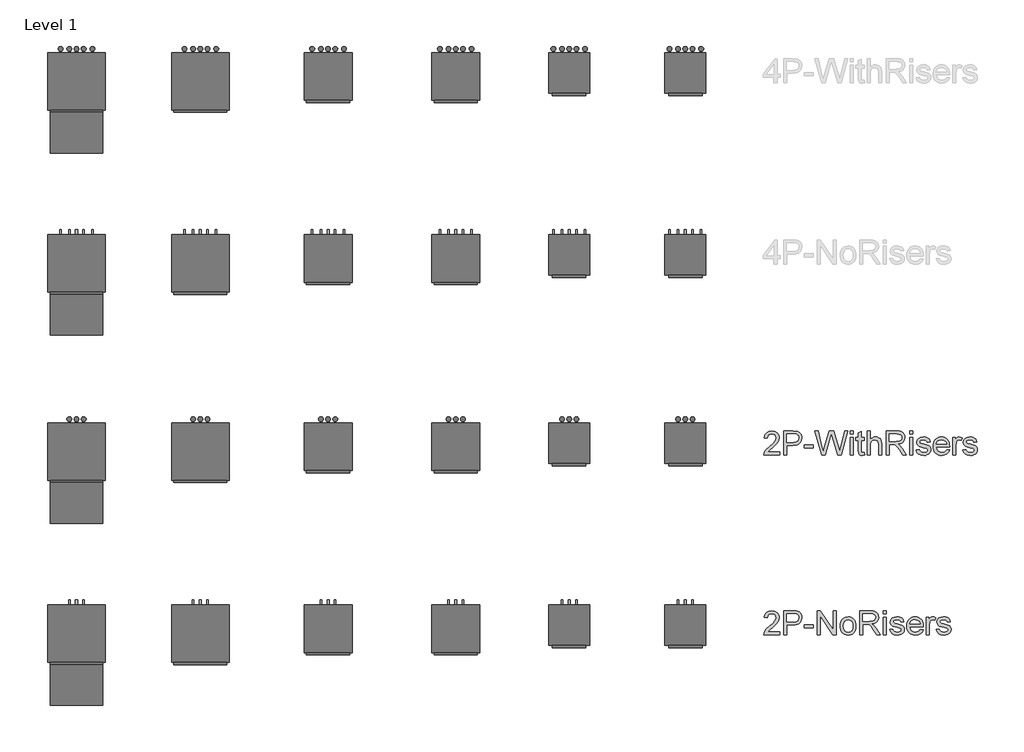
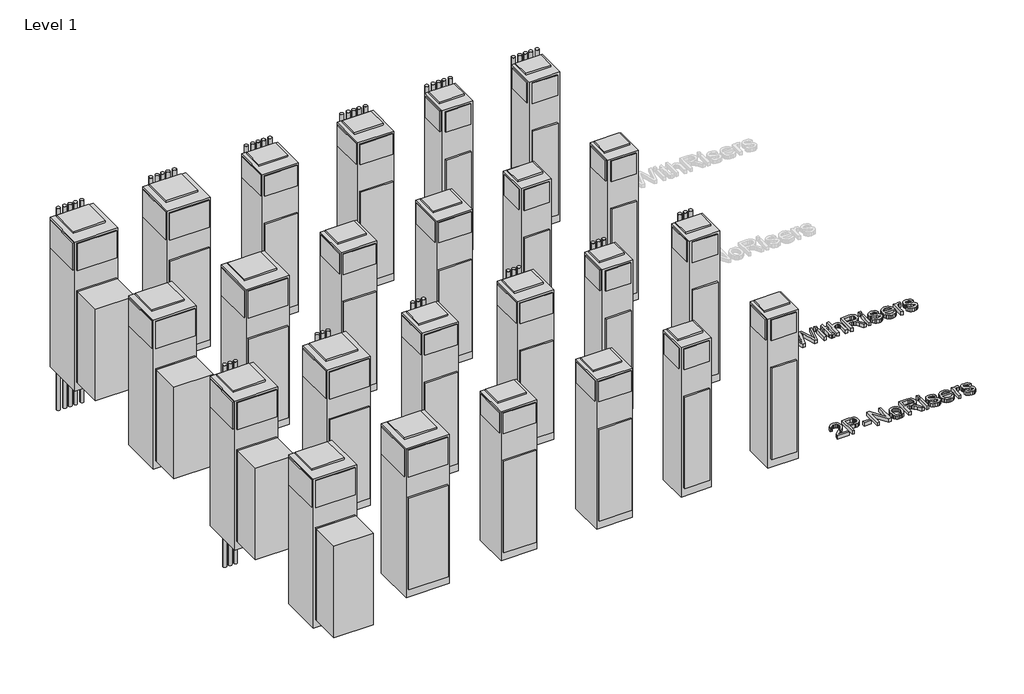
# One storey, part 1 of 2: 26 proxies.
"""IFC4 building model written with IfcOpenShell, lengths in millimetres."""

from ifc_helpers import new_model, si_unit, origin, origin_with_axes, place, context, project, spatial, polyline, outline, extrude, transform, mapped, element, save
from components import mechanical_equipment_94ad796c, mechanical_equipment_121a5135, mechanical_equipment_82ef6e23, mechanical_equipment_de3bccae, mechanical_equipment_6c74cc56, mechanical_equipment_7ddb4bdb, mechanical_equipment_e8b0c8a9, mechanical_equipment_c784438e, mechanical_equipment_e8841748, mechanical_equipment_2408cd90, mechanical_equipment_3d1a22ab, mechanical_equipment_fe32acea, mechanical_equipment_2a1655f5, mechanical_equipment_b0b4adb2, mechanical_equipment_d6ec7b3b, mechanical_equipment_a020af52

model = new_model("IFC4")

# Units and contexts
model_context = context("Model", 3, world=origin())
ifc_project = project(units=[si_unit("LENGTHUNIT", "METRE", prefix="MILLI")], contexts=[model_context])

# Site, building, storey
site = spatial("IfcSite", under=ifc_project)
building = spatial("IfcBuilding", under=site)
storey = spatial("IfcBuildingStorey", under=building, Name="Level 1", Elevation=0.0)

# Proxies
placement = place(None, origin())
mechanical_equipment_shape = mechanical_equipment_94ad796c(model_context)
element("IfcBuildingElementProxy", 1, Name="Concealed_Universal_Modular_Fan_Coil_Unit_-_42SUB_-_CARRIER_-_2-Pipe_Cool-EHeat_-_NoRisers_2022 : Size 03 - 277v/60Hz/1Ph - 4 Row 3.0kW", ObjectType="Concealed_Universal_Modular_Fan_Coil_Unit_-_42SUB_-_CARRIER_-_2-Pipe_Cool-EHeat_-_NoRisers_2022 : Size 03 - 277v/60Hz/1Ph - 4 Row 3.0kW", at=placement, inside=storey, context=model_context, shape_type="MappedRepresentation", body=[
    mapped(mechanical_equipment_shape, transform((-16313.9378135, -2906.7044754, 0.0), x_axis=(1.0, 0.0, 0.0), y_axis=(0.0, 1.0, 0.0), z_axis=(0.0, 0.0, 1.0))),
])
element("IfcBuildingElementProxy", 2, Name="Concealed_Universal_Modular_Fan_Coil_Unit_-_42SUB_-_CARRIER_-_2-Pipe_Cool-EHeat_-_NoRisers_2022 : Size 04 - 277v/60Hz/1Ph - 4 Row 4.0kW", ObjectType="Concealed_Universal_Modular_Fan_Coil_Unit_-_42SUB_-_CARRIER_-_2-Pipe_Cool-EHeat_-_NoRisers_2022 : Size 04 - 277v/60Hz/1Ph - 4 Row 4.0kW", at=placement, inside=storey, context=model_context, shape_type="MappedRepresentation", body=[
    mapped(mechanical_equipment_shape, transform((-17544.5504669, -2906.7044754, 0.0), x_axis=(1.0, 0.0, 0.0), y_axis=(0.0, 1.0, 0.0), z_axis=(0.0, 0.0, 1.0))),
])
mechanical_equipment_2_shape = mechanical_equipment_121a5135(model_context)
element("IfcBuildingElementProxy", 3, Name="Concealed_Universal_Modular_Fan_Coil_Unit_-_42SUB_-_CARRIER_-_2-Pipe_Cool-EHeat_-_NoRisers_2022 : Size 06 - 277v/60Hz/1Ph - 4 Row 6.0kW", ObjectType="Concealed_Universal_Modular_Fan_Coil_Unit_-_42SUB_-_CARRIER_-_2-Pipe_Cool-EHeat_-_NoRisers_2022 : Size 06 - 277v/60Hz/1Ph - 4 Row 6.0kW", at=placement, inside=storey, context=model_context, shape_type="MappedRepresentation", body=[
    mapped(mechanical_equipment_2_shape, transform((-18785.4182257, -2906.7044754, 0.0), x_axis=(1.0, 0.0, 0.0), y_axis=(0.0, 1.0, 0.0), z_axis=(0.0, 0.0, 1.0))),
])
element("IfcBuildingElementProxy", 4, Name="Concealed_Universal_Modular_Fan_Coil_Unit_-_42SUB_-_CARRIER_-_2-Pipe_Cool-EHeat_-_NoRisers_2022 : Size 08 - 277v/60Hz/1Ph - 4 Row 8.0kW", ObjectType="Concealed_Universal_Modular_Fan_Coil_Unit_-_42SUB_-_CARRIER_-_2-Pipe_Cool-EHeat_-_NoRisers_2022 : Size 08 - 277v/60Hz/1Ph - 4 Row 8.0kW", at=placement, inside=storey, context=model_context, shape_type="MappedRepresentation", body=[
    mapped(mechanical_equipment_2_shape, transform((-20139.0921444, -2906.7044754, 0.0), x_axis=(1.0, 0.0, 0.0), y_axis=(0.0, 1.0, 0.0), z_axis=(0.0, 0.0, 1.0))),
])
mechanical_equipment_3_shape = mechanical_equipment_82ef6e23(model_context)
element("IfcBuildingElementProxy", 5, Name="Concealed_Universal_Modular_Fan_Coil_Unit_-_42SUB_-_CARRIER_-_2-Pipe_Cool-EHeat_-_NoRisers_2022 : Size 10 - 277v/60Hz/1Ph - 4 Row 8.0kW", ObjectType="Concealed_Universal_Modular_Fan_Coil_Unit_-_42SUB_-_CARRIER_-_2-Pipe_Cool-EHeat_-_NoRisers_2022 : Size 10 - 277v/60Hz/1Ph - 4 Row 8.0kW", at=placement, inside=storey, context=model_context, shape_type="MappedRepresentation", body=[
    mapped(mechanical_equipment_3_shape, transform((-21544.0415903, -2906.7044754, 0.0), x_axis=(1.0, 0.0, 0.0), y_axis=(0.0, 1.0, 0.0), z_axis=(0.0, 0.0, 1.0))),
])
mechanical_equipment_4_shape = mechanical_equipment_de3bccae(model_context)
element("IfcBuildingElementProxy", 6, Name="Concealed_Universal_Modular_Fan_Coil_Unit_-_42SUB_-_CARRIER_-_4-Pipe_-_NoRisers_2022 : Size 03 - 277v/60Hz/1Ph - 4/1 Coil", ObjectType="Concealed_Universal_Modular_Fan_Coil_Unit_-_42SUB_-_CARRIER_-_4-Pipe_-_NoRisers_2022 : Size 03 - 277v/60Hz/1Ph - 4/1 Coil", at=placement, inside=storey, context=model_context, shape_type="MappedRepresentation", body=[
    mapped(mechanical_equipment_4_shape, transform((-16313.9378135, 1021.3950242, 0.0), x_axis=(1.0, 0.0, 0.0), y_axis=(0.0, 1.0, 0.0), z_axis=(0.0, 0.0, 1.0))),
])
element("IfcBuildingElementProxy", 7, Name="Concealed_Universal_Modular_Fan_Coil_Unit_-_42SUB_-_CARRIER_-_4-Pipe_-_NoRisers_2022 : Size 04 - 277v/60Hz/1Ph - 4/1 Coil", ObjectType="Concealed_Universal_Modular_Fan_Coil_Unit_-_42SUB_-_CARRIER_-_4-Pipe_-_NoRisers_2022 : Size 04 - 277v/60Hz/1Ph - 4/1 Coil", at=placement, inside=storey, context=model_context, shape_type="MappedRepresentation", body=[
    mapped(mechanical_equipment_4_shape, transform((-17544.5504669, 1021.3950242, 0.0), x_axis=(1.0, 0.0, 0.0), y_axis=(0.0, 1.0, 0.0), z_axis=(0.0, 0.0, 1.0))),
])
mechanical_equipment_5_shape = mechanical_equipment_6c74cc56(model_context)
element("IfcBuildingElementProxy", 8, Name="Concealed_Universal_Modular_Fan_Coil_Unit_-_42SUB_-_CARRIER_-_4-Pipe_-_NoRisers_2022 : Size 06 - 277v/60Hz/1Ph - 4/1 Coil", ObjectType="Concealed_Universal_Modular_Fan_Coil_Unit_-_42SUB_-_CARRIER_-_4-Pipe_-_NoRisers_2022 : Size 06 - 277v/60Hz/1Ph - 4/1 Coil", at=placement, inside=storey, context=model_context, shape_type="MappedRepresentation", body=[
    mapped(mechanical_equipment_5_shape, transform((-18785.4182257, 1021.3950242, 0.0), x_axis=(1.0, 0.0, 0.0), y_axis=(0.0, 1.0, 0.0), z_axis=(0.0, 0.0, 1.0))),
])
element("IfcBuildingElementProxy", 9, Name="Concealed_Universal_Modular_Fan_Coil_Unit_-_42SUB_-_CARRIER_-_4-Pipe_-_NoRisers_2022 : Size 08 - 277v/60Hz/1Ph - 4/1 Coil", ObjectType="Concealed_Universal_Modular_Fan_Coil_Unit_-_42SUB_-_CARRIER_-_4-Pipe_-_NoRisers_2022 : Size 08 - 277v/60Hz/1Ph - 4/1 Coil", at=placement, inside=storey, context=model_context, shape_type="MappedRepresentation", body=[
    mapped(mechanical_equipment_5_shape, transform((-20139.0921444, 1021.3950242, 0.0), x_axis=(1.0, 0.0, 0.0), y_axis=(0.0, 1.0, 0.0), z_axis=(0.0, 0.0, 1.0))),
])
mechanical_equipment_6_shape = mechanical_equipment_7ddb4bdb(model_context)
element("IfcBuildingElementProxy", 10, Name="Concealed_Universal_Modular_Fan_Coil_Unit_-_42SUB_-_CARRIER_-_4-Pipe_-_NoRisers_2022 : Size 10 - 277v/60Hz/1Ph - 4/1 Coil", ObjectType="Concealed_Universal_Modular_Fan_Coil_Unit_-_42SUB_-_CARRIER_-_4-Pipe_-_NoRisers_2022 : Size 10 - 277v/60Hz/1Ph - 4/1 Coil", at=placement, inside=storey, context=model_context, shape_type="MappedRepresentation", body=[
    mapped(mechanical_equipment_6_shape, transform((-21544.0415903, 1021.3950242, 0.0), x_axis=(1.0, 0.0, 0.0), y_axis=(0.0, 1.0, 0.0), z_axis=(0.0, 0.0, 1.0))),
])
mechanical_equipment_7_shape = mechanical_equipment_e8b0c8a9(model_context)
element("IfcBuildingElementProxy", 11, Name="Concealed_Universal_Modular_Fan_Coil_Unit_-_42SUB_-_CARRIER_-_2-Pipe_Cool-EHeat_-_WithRisers_2022 : Size 03 - 277v/60Hz/1Ph - 4 Row 3.0kW", ObjectType="Concealed_Universal_Modular_Fan_Coil_Unit_-_42SUB_-_CARRIER_-_2-Pipe_Cool-EHeat_-_WithRisers_2022 : Size 03 - 277v/60Hz/1Ph - 4 Row 3.0kW", at=placement, inside=storey, context=model_context, shape_type="MappedRepresentation", body=[
    mapped(mechanical_equipment_7_shape, transform((-16313.9378135, -976.3044754, 0.0), x_axis=(1.0, 0.0, 0.0), y_axis=(0.0, 1.0, 0.0), z_axis=(0.0, 0.0, 1.0))),
])
element("IfcBuildingElementProxy", 12, Name="Concealed_Universal_Modular_Fan_Coil_Unit_-_42SUB_-_CARRIER_-_2-Pipe_Cool-EHeat_-_WithRisers_2022 : Size 04 - 277v/60Hz/1Ph - 4 Row 4.0kW", ObjectType="Concealed_Universal_Modular_Fan_Coil_Unit_-_42SUB_-_CARRIER_-_2-Pipe_Cool-EHeat_-_WithRisers_2022 : Size 04 - 277v/60Hz/1Ph - 4 Row 4.0kW", at=placement, inside=storey, context=model_context, shape_type="MappedRepresentation", body=[
    mapped(mechanical_equipment_7_shape, transform((-17544.5504669, -976.3044754, 0.0), x_axis=(1.0, 0.0, 0.0), y_axis=(0.0, 1.0, 0.0), z_axis=(0.0, 0.0, 1.0))),
])
mechanical_equipment_8_shape = mechanical_equipment_c784438e(model_context)
element("IfcBuildingElementProxy", 13, Name="Concealed_Universal_Modular_Fan_Coil_Unit_-_42SUB_-_CARRIER_-_2-Pipe_Cool-EHeat_-_WithRisers_2022 : Size 06 - 277v/60Hz/1Ph - 4 Row 6.0kW", ObjectType="Concealed_Universal_Modular_Fan_Coil_Unit_-_42SUB_-_CARRIER_-_2-Pipe_Cool-EHeat_-_WithRisers_2022 : Size 06 - 277v/60Hz/1Ph - 4 Row 6.0kW", at=placement, inside=storey, context=model_context, shape_type="MappedRepresentation", body=[
    mapped(mechanical_equipment_8_shape, transform((-18785.4182257, -976.3044754, 0.0), x_axis=(1.0, 0.0, 0.0), y_axis=(0.0, 1.0, 0.0), z_axis=(0.0, 0.0, 1.0))),
])
element("IfcBuildingElementProxy", 14, Name="Concealed_Universal_Modular_Fan_Coil_Unit_-_42SUB_-_CARRIER_-_2-Pipe_Cool-EHeat_-_WithRisers_2022 : Size 08 - 277v/60Hz/1Ph - 4 Row 8.0kW", ObjectType="Concealed_Universal_Modular_Fan_Coil_Unit_-_42SUB_-_CARRIER_-_2-Pipe_Cool-EHeat_-_WithRisers_2022 : Size 08 - 277v/60Hz/1Ph - 4 Row 8.0kW", at=placement, inside=storey, context=model_context, shape_type="MappedRepresentation", body=[
    mapped(mechanical_equipment_8_shape, transform((-20139.0921444, -976.3044754, 0.0), x_axis=(1.0, 0.0, 0.0), y_axis=(0.0, 1.0, 0.0), z_axis=(0.0, 0.0, 1.0))),
])
mechanical_equipment_9_shape = mechanical_equipment_e8841748(model_context)
element("IfcBuildingElementProxy", 15, Name="Concealed_Universal_Modular_Fan_Coil_Unit_-_42SUB_-_CARRIER_-_2-Pipe_Cool-EHeat_-_WithRisers_2022 : Size 10 - 277v/60Hz/1Ph - 4 Row 8.0kW", ObjectType="Concealed_Universal_Modular_Fan_Coil_Unit_-_42SUB_-_CARRIER_-_2-Pipe_Cool-EHeat_-_WithRisers_2022 : Size 10 - 277v/60Hz/1Ph - 4 Row 8.0kW", at=placement, inside=storey, context=model_context, shape_type="MappedRepresentation", body=[
    mapped(mechanical_equipment_9_shape, transform((-21544.0415903, -976.3044754, 0.0), x_axis=(1.0, 0.0, 0.0), y_axis=(0.0, 1.0, 0.0), z_axis=(0.0, 0.0, 1.0))),
])
mechanical_equipment_10_shape = mechanical_equipment_2408cd90(model_context)
element("IfcBuildingElementProxy", 16, Name="Concealed_Universal_Modular_Fan_Coil_Unit_-_42SUB_-_CARRIER_-_4-Pipe_-_WithRisers_2022 : Size 03 - 277v/60Hz/1Ph - 4/1 Coil", ObjectType="Concealed_Universal_Modular_Fan_Coil_Unit_-_42SUB_-_CARRIER_-_4-Pipe_-_WithRisers_2022 : Size 03 - 277v/60Hz/1Ph - 4/1 Coil", at=placement, inside=storey, context=model_context, shape_type="MappedRepresentation", body=[
    mapped(mechanical_equipment_10_shape, transform((-16313.9378135, 2951.7950242, 0.0), x_axis=(1.0, 0.0, 0.0), y_axis=(0.0, 1.0, 0.0), z_axis=(0.0, 0.0, 1.0))),
])
element("IfcBuildingElementProxy", 17, Name="Concealed_Universal_Modular_Fan_Coil_Unit_-_42SUB_-_CARRIER_-_4-Pipe_-_WithRisers_2022 : Size 04 - 277v/60Hz/1Ph - 4/1 Coil", ObjectType="Concealed_Universal_Modular_Fan_Coil_Unit_-_42SUB_-_CARRIER_-_4-Pipe_-_WithRisers_2022 : Size 04 - 277v/60Hz/1Ph - 4/1 Coil", at=placement, inside=storey, context=model_context, shape_type="MappedRepresentation", body=[
    mapped(mechanical_equipment_10_shape, transform((-17544.5504669, 2951.7950242, 0.0), x_axis=(1.0, 0.0, 0.0), y_axis=(0.0, 1.0, 0.0), z_axis=(0.0, 0.0, 1.0))),
])
mechanical_equipment_11_shape = mechanical_equipment_3d1a22ab(model_context)
element("IfcBuildingElementProxy", 18, Name="Concealed_Universal_Modular_Fan_Coil_Unit_-_42SUB_-_CARRIER_-_4-Pipe_-_WithRisers_2022 : Size 06 - 277v/60Hz/1Ph - 4/1 Coil", ObjectType="Concealed_Universal_Modular_Fan_Coil_Unit_-_42SUB_-_CARRIER_-_4-Pipe_-_WithRisers_2022 : Size 06 - 277v/60Hz/1Ph - 4/1 Coil", at=placement, inside=storey, context=model_context, shape_type="MappedRepresentation", body=[
    mapped(mechanical_equipment_11_shape, transform((-18785.4182257, 2951.7950242, 0.0), x_axis=(1.0, 0.0, 0.0), y_axis=(0.0, 1.0, 0.0), z_axis=(0.0, 0.0, 1.0))),
])
element("IfcBuildingElementProxy", 19, Name="Concealed_Universal_Modular_Fan_Coil_Unit_-_42SUB_-_CARRIER_-_4-Pipe_-_WithRisers_2022 : Size 08 - 277v/60Hz/1Ph - 4/1 Coil", ObjectType="Concealed_Universal_Modular_Fan_Coil_Unit_-_42SUB_-_CARRIER_-_4-Pipe_-_WithRisers_2022 : Size 08 - 277v/60Hz/1Ph - 4/1 Coil", at=placement, inside=storey, context=model_context, shape_type="MappedRepresentation", body=[
    mapped(mechanical_equipment_11_shape, transform((-20139.0921444, 2951.7950242, 0.0), x_axis=(1.0, 0.0, 0.0), y_axis=(0.0, 1.0, 0.0), z_axis=(0.0, 0.0, 1.0))),
])
mechanical_equipment_12_shape = mechanical_equipment_fe32acea(model_context)
element("IfcBuildingElementProxy", 20, Name="Concealed_Universal_Modular_Fan_Coil_Unit_-_42SUB_-_CARRIER_-_4-Pipe_-_WithRisers_2022 : Size 10 - 277v/60Hz/1Ph - 4/1 Coil", ObjectType="Concealed_Universal_Modular_Fan_Coil_Unit_-_42SUB_-_CARRIER_-_4-Pipe_-_WithRisers_2022 : Size 10 - 277v/60Hz/1Ph - 4/1 Coil", at=placement, inside=storey, context=model_context, shape_type="MappedRepresentation", body=[
    mapped(mechanical_equipment_12_shape, transform((-21544.0415903, 2951.7950242, 0.0), x_axis=(1.0, 0.0, 0.0), y_axis=(0.0, 1.0, 0.0), z_axis=(0.0, 0.0, 1.0))),
])
mechanical_equipment_13_shape = mechanical_equipment_2a1655f5(model_context)
element("IfcBuildingElementProxy", 21, Name="Concealed_Universal_Modular_Fan_Coil_Unit_-_42SUB_-_CARRIER_-_2-Pipe_Cool-EHeat_-_NoRisers_2022 : Size 12 - 277v/60Hz/1Ph - 4 Row 8.0kW", ObjectType="Concealed_Universal_Modular_Fan_Coil_Unit_-_42SUB_-_CARRIER_-_2-Pipe_Cool-EHeat_-_NoRisers_2022 : Size 12 - 277v/60Hz/1Ph - 4 Row 8.0kW", at=placement, inside=storey, context=model_context, shape_type="MappedRepresentation", body=[
    mapped(mechanical_equipment_13_shape, transform((-22856.6950872, -2906.7044754, 0.0), x_axis=(1.0, 0.0, 0.0), y_axis=(0.0, 1.0, 0.0), z_axis=(0.0, 0.0, 1.0))),
])
mechanical_equipment_14_shape = mechanical_equipment_b0b4adb2(model_context)
element("IfcBuildingElementProxy", 22, Name="Concealed_Universal_Modular_Fan_Coil_Unit_-_42SUB_-_CARRIER_-_2-Pipe_Cool-EHeat_-_WithRisers_2022 : Size 12 - 277v/60Hz/1Ph - 4 Row 8.0kW", ObjectType="Concealed_Universal_Modular_Fan_Coil_Unit_-_42SUB_-_CARRIER_-_2-Pipe_Cool-EHeat_-_WithRisers_2022 : Size 12 - 277v/60Hz/1Ph - 4 Row 8.0kW", at=placement, inside=storey, context=model_context, shape_type="MappedRepresentation", body=[
    mapped(mechanical_equipment_14_shape, transform((-22856.6950872, -976.3044754, 0.0), x_axis=(1.0, 0.0, 0.0), y_axis=(0.0, 1.0, 0.0), z_axis=(0.0, 0.0, 1.0))),
])
mechanical_equipment_15_shape = mechanical_equipment_d6ec7b3b(model_context)
element("IfcBuildingElementProxy", 23, Name="Concealed_Universal_Modular_Fan_Coil_Unit_-_42SUB_-_CARRIER_-_4-Pipe_-_NoRisers_2022 : Size 12 - 277v/60Hz/1Ph - 4/1 Coil", ObjectType="Concealed_Universal_Modular_Fan_Coil_Unit_-_42SUB_-_CARRIER_-_4-Pipe_-_NoRisers_2022 : Size 12 - 277v/60Hz/1Ph - 4/1 Coil", at=placement, inside=storey, context=model_context, shape_type="MappedRepresentation", body=[
    mapped(mechanical_equipment_15_shape, transform((-22856.6950872, 1021.3950242, 0.0), x_axis=(1.0, 0.0, 0.0), y_axis=(0.0, 1.0, 0.0), z_axis=(0.0, 0.0, 1.0))),
])
mechanical_equipment_16_shape = mechanical_equipment_a020af52(model_context)
element("IfcBuildingElementProxy", 24, Name="Concealed_Universal_Modular_Fan_Coil_Unit_-_42SUB_-_CARRIER_-_4-Pipe_-_WithRisers_2022 : Size 12 - 277v/60Hz/1Ph - 4/1 Coil", ObjectType="Concealed_Universal_Modular_Fan_Coil_Unit_-_42SUB_-_CARRIER_-_4-Pipe_-_WithRisers_2022 : Size 12 - 277v/60Hz/1Ph - 4/1 Coil", at=placement, inside=storey, context=model_context, shape_type="MappedRepresentation", body=[
    mapped(mechanical_equipment_16_shape, transform((-22856.6950872, 2951.7950242, 0.0), x_axis=(1.0, 0.0, 0.0), y_axis=(0.0, 1.0, 0.0), z_axis=(0.0, 0.0, 1.0))),
])
element("IfcBuildingElementProxy", 25, Name="24\" Arial", ObjectType="24\" Arial", at=placement, inside=storey, context=model_context, shape_type="SweptSolid", body=[
    extrude(outline(polyline([(-14945.4510312, -1041.9364832), (-14945.4510312, -1073.8313617), (-15112.8991432, -1073.8313617), (-15109.4729355, -1051.8413381), (-15101.6082316, -1034.655792), (-15090.0992886, -1017.984177), (-15050.1683958, -981.0122818), (-15015.7505827, -950.4411654), (-14995.0998947, -927.8749159), (-14984.7745508, -909.5602786), (-14981.3327695, -891.7439989), (-14984.5798799, -875.7731991), (-14994.3212112, -862.4966445), (-15009.295296, -853.5495704), (-15028.2406669, -850.5672124), (-15048.1360318, -853.4794889), (-15063.5929004, -862.2163184), (-15073.5678367, -876.0924594), (-15077.0174049, -894.4226703), (-15108.9122833, -890.4358105), (-15101.1799556, -859.584368), (-15084.4616197, -837.0492659), (-15059.6294011, -823.2665669), (-15027.5554254, -818.6723339), (-14995.2478446, -823.7804981), (-14970.462347, -839.1049905), (-14954.694005, -861.998287), (-14949.437891, -889.8128637), (-14955.1067073, -920.056933), (-14973.9508493, -951.3288646), (-15019.6440004, -995.0285858), (-15056.3355696, -1025.7087179), (-15070.7256417, -1041.9364832), (-14945.4510312, -1041.9364832)])), origin_with_axes(), (0.0, 0.0, 1.0), 50.8),
    extrude(outline(polyline([(-14901.5955733, -1073.8313617), (-14901.5955733, -818.6723339), (-14807.0322422, -818.6723339), (-14768.9078953, -821.1018266), (-14751.9092332, -825.6415518), (-14737.9162897, -833.0312587), (-14726.6487386, -843.6057814), (-14717.826254, -857.6999538), (-14712.1262903, -874.3248477), (-14710.2263024, -892.4915351), (-14715.3578271, -922.564294), (-14730.752401, -947.6223309), (-14743.0809084, -957.4882515), (-14759.5403321, -964.5353377), (-14780.130672, -968.7635894), (-14804.8519282, -970.1730067), (-14869.7006948, -970.1730067), (-14869.7006948, -1073.8313617), (-14901.5955733, -1073.8313617)]), holes=[polyline([(-14869.7006948, -938.2781282), (-14802.9830877, -938.2781282), (-14774.7013009, -935.350278), (-14756.0128956, -926.5667275), (-14745.5941096, -912.4725551), (-14742.1211809, -893.6128394), (-14744.1691187, -879.285062), (-14750.3129319, -867.1998932), (-14759.7895108, -858.1048692), (-14771.8357454, -852.7475264), (-14803.7306239, -850.5672124), (-14869.7006948, -850.5672124), (-14869.7006948, -938.2781282)])]), origin_with_axes(), (0.0, 0.0, 1.0), 50.8),
    extrude(outline(polyline([(-14686.3051436, -998.0810253), (-14686.3051436, -966.1861469), (-14586.6336484, -966.1861469), (-14586.6336484, -998.0810253), (-14686.3051436, -998.0810253)])), origin_with_axes(), (0.0, 0.0, 1.0), 50.8),
    extrude(outline(polyline([(-14501.1030465, -1073.8313617), (-14570.6862091, -818.6723339), (-14537.7946157, -818.6723339), (-14497.4276601, -986.3696247), (-14484.9687232, -1038.1365075), (-14471.6376607, -992.3499144), (-14421.0543769, -818.6723339), (-14373.648122, -818.6723339), (-14336.8942581, -944.5698913), (-14321.1492766, -991.2909047), (-14309.5468916, -1038.1365075), (-14297.4617228, -987.8646971), (-14256.7209992, -818.6723339), (-14223.8294057, -818.6723339), (-14293.474863, -1073.8313617), (-14327.5500555, -1073.8313617), (-14388.7234357, -876.9801586), (-14397.2578074, -849.5082028), (-14406.8511888, -882.5866802), (-14462.6049315, -1073.8313617), (-14501.1030465, -1073.8313617)])), origin_with_axes(), (0.0, 0.0, 1.0), 50.8),
    extrude(outline(polyline([(-14195.9213871, -850.5672124), (-14195.9213871, -818.6723339), (-14164.0265086, -818.6723339), (-14164.0265086, -850.5672124), (-14195.9213871, -850.5672124)])), origin_with_axes(), (0.0, 0.0, 1.0), 50.8),
    extrude(outline(polyline([(-14195.9213871, -1073.8313617), (-14195.9213871, -886.4489507), (-14164.0265086, -886.4489507), (-14164.0265086, -1073.8313617), (-14195.9213871, -1073.8313617)])), origin_with_axes(), (0.0, 0.0, 1.0), 50.8),
    extrude(outline(polyline([(-14048.4075741, -1047.2315314), (-14044.4207143, -1074.765782), (-14068.2795785, -1077.8182215), (-14083.5884972, -1076.4944595), (-14095.0039982, -1072.5231733), (-14108.3350606, -1058.6314587), (-14112.1973311, -1022.438247), (-14112.1973311, -918.3438292), (-14136.1184899, -918.3438292), (-14136.1184899, -886.4489507), (-14112.1973311, -886.4489507), (-14112.1973311, -840.9115363), (-14080.3024526, -822.1608363), (-14080.3024526, -886.4489507), (-14048.4075741, -886.4489507), (-14048.4075741, -918.3438292), (-14080.3024526, -918.3438292), (-14080.3024526, -1021.5038267), (-14078.6204961, -1037.9496234), (-14073.1697112, -1043.7741764), (-14062.2992888, -1045.923343), (-14048.4075741, -1047.2315314)])), origin_with_axes(), (0.0, 0.0, 1.0), 50.8),
    extrude(outline(polyline([(-14016.5126957, -1073.8313617), (-14016.5126957, -818.6723339), (-13984.6178172, -818.6723339), (-13984.6178172, -912.4881288), (-13972.9025231, -899.3517372), (-13959.7466644, -889.9686004), (-13945.1502411, -884.3387182), (-13929.1132533, -882.4620909), (-13909.8486221, -884.5100286), (-13893.2938097, -890.6538419), (-13880.258647, -900.4107469), (-13871.5529648, -913.2979597), (-13866.6472584, -931.0052238), (-13865.0120229, -955.2222824), (-13865.0120229, -1073.8313617), (-13896.9069014, -1073.8313617), (-13896.9069014, -958.5239007), (-13899.4454098, -938.5584543), (-13907.060935, -924.884771), (-13919.3329878, -916.9889198), (-13935.8410792, -914.3569693), (-13949.3200916, -916.1323679), (-13961.9736994, -921.4585634), (-13972.45478, -929.8216248), (-13979.416211, -940.7076209), (-13983.3174157, -955.1755614), (-13984.6178172, -974.2844559), (-13984.6178172, -1073.8313617), (-14016.5126957, -1073.8313617)])), origin_with_axes(), (0.0, 0.0, 1.0), 50.8),
    extrude(outline(polyline([(-13817.1697052, -1073.8313617), (-13817.1697052, -818.6723339), (-13707.219587, -818.6723339), (-13677.6685461, -820.3932246), (-13656.1690931, -825.5558966), (-13640.4552589, -835.0869833), (-13628.2610744, -849.9131182), (-13620.4353047, -868.297837), (-13617.8267148, -888.5046753), (-13622.1484085, -913.6405805), (-13635.1134897, -934.4781524), (-13657.1113002, -949.7559238), (-13688.5311817, -958.2124272), (-13670.4034285, -971.8549632), (-13644.5511344, -1004.6842619), (-13602.0038649, -1073.8313617), (-13639.0692022, -1073.8313617), (-13672.272269, -1020.9431746), (-13696.2557226, -985.9335619), (-13713.1064347, -969.3943231), (-13728.2751904, -963.3205914), (-13746.7767117, -962.1992871), (-13785.2748267, -962.1992871), (-13785.2748267, -1073.8313617), (-13817.1697052, -1073.8313617)]), holes=[polyline([(-13785.2748267, -930.3044086), (-13713.8851183, -930.3044086), (-13677.4738752, -925.788044), (-13665.4977221, -919.9167699), (-13656.7920399, -911.3356772), (-13651.4892049, -900.9558253), (-13649.7215932, -889.6882743), (-13653.093293, -874.1301768), (-13663.2083924, -861.5933716), (-13680.6119699, -853.3237522), (-13705.849104, -850.5672124), (-13785.2748267, -850.5672124), (-13785.2748267, -930.3044086)])]), origin_with_axes(), (0.0, 0.0, 1.0), 50.8),
    extrude(outline(polyline([(-13565.9975372, -850.5672124), (-13565.9975372, -818.6723339), (-13534.1026588, -818.6723339), (-13534.1026588, -850.5672124), (-13565.9975372, -850.5672124)])), origin_with_axes(), (0.0, 0.0, 1.0), 50.8),
    extrude(outline(polyline([(-13565.9975372, -1073.8313617), (-13565.9975372, -886.4489507), (-13534.1026588, -886.4489507), (-13534.1026588, -1073.8313617), (-13565.9975372, -1073.8313617)])), origin_with_axes(), (0.0, 0.0, 1.0), 50.8),
    extrude(outline(polyline([(-13498.2209205, -1018.0153244), (-13466.326042, -1014.0284646), (-13461.2957462, -1027.6710005), (-13451.5622018, -1037.7004447), (-13437.063114, -1043.8676185), (-13417.7361881, -1045.923343), (-13398.6428673, -1044.0389288), (-13385.2183628, -1038.3856862), (-13377.2757905, -1030.1939352), (-13374.6282664, -1020.6939958), (-13377.2913642, -1012.5645395), (-13385.2806575, -1006.3662184), (-13418.1099562, -997.2711944), (-13466.139158, -981.666376), (-13478.2944083, -973.8250326), (-13487.1013193, -963.4451807), (-13492.4508753, -951.1887016), (-13494.2340607, -937.717476), (-13488.5029497, -913.9520539), (-13472.8669839, -895.7931534), (-13452.5900641, -886.3555087), (-13425.1492555, -882.4620909), (-13404.3895519, -884.0272448), (-13386.3396671, -888.7227067), (-13371.8250056, -896.0890531), (-13361.670972, -905.6668609), (-13354.9431461, -918.1647319), (-13350.7071076, -934.2912684), (-13382.601986, -938.2781282), (-13386.62778, -928.2408972), (-13394.5937128, -920.6798798), (-13406.5776527, -915.937697), (-13422.6574682, -914.3569693), (-13440.9721054, -915.8676154), (-13453.1818636, -920.3995537), (-13460.0498525, -926.9404956), (-13462.3391822, -934.4781524), (-13458.5392064, -943.7600604), (-13446.6409217, -950.7993598), (-13419.1689658, -957.5894804), (-13372.3545104, -972.6024994), (-13359.9890155, -979.7819618), (-13350.6136655, -989.6089482), (-13344.7034573, -1002.1146062), (-13342.7333879, -1017.3300829), (-13345.0460781, -1033.0594907), (-13351.9841486, -1047.8544783), (-13363.282847, -1060.5548071), (-13378.6774209, -1070.0002386), (-13397.2723842, -1075.8637258), (-13418.1722509, -1077.8182215), (-13450.3318818, -1074.0493931), (-13473.8014042, -1062.7429079), (-13489.4685173, -1044.0233552), (-13498.2209205, -1018.0153244)])), origin_with_axes(), (0.0, 0.0, 1.0), 50.8),
    extrude(outline(polyline([(-13175.6590441, -1018.0153244), (-13144.3871124, -1022.0021842), (-13155.6546635, -1045.5651486), (-13173.6344668, -1063.1789707), (-13197.9216069, -1074.1584088), (-13228.1111684, -1077.8182215), (-13247.901411, -1076.2394406), (-13265.5347001, -1071.5030979), (-13281.0110358, -1063.6091933), (-13294.3304181, -1052.557727), (-13305.0412104, -1038.6562788), (-13312.6917763, -1022.2124288), (-13317.2821159, -1003.2261769), (-13318.8122291, -981.6975233), (-13317.2665422, -959.4388539), (-13312.6294816, -939.8199216), (-13304.9010473, -922.8407267), (-13294.0812393, -908.501269), (-13280.7968979, -897.1091286), (-13265.6748632, -888.9718854), (-13248.7151353, -884.0895395), (-13229.9177143, -882.4620909), (-13211.7257197, -884.0856461), (-13195.2740828, -888.9563117), (-13180.5628038, -897.0740878), (-13167.5918824, -908.4389743), (-13157.0037328, -922.7472847), (-13149.4407687, -939.6953323), (-13144.9029903, -959.2831171), (-13143.3903975, -981.5106393), (-13143.5772815, -990.1073057), (-13286.9173506, -990.1073057), (-13281.3964842, -1013.9817436), (-13268.571566, -1031.5332709), (-13250.0622579, -1042.325825), (-13227.4882216, -1045.923343), (-13210.51292, -1044.2569602), (-13196.2162899, -1039.2578118), (-13184.5983313, -1030.6144243), (-13175.6590441, -1018.0153244)]), holes=[polyline([(-13286.9173506, -958.2124272), (-13175.285276, -958.2124272), (-13179.5991829, -941.3617151), (-13188.0556863, -929.3076936), (-13206.6506496, -918.0946504), (-13230.0423036, -914.3569693), (-13251.5417566, -917.3393274), (-13269.3191022, -926.2864014), (-13281.6768103, -940.2326239), (-13286.9173506, -958.2124272)])]), origin_with_axes(), (0.0, 0.0, 1.0), 50.8),
    extrude(outline(polyline([(-13111.495519, -1073.8313617), (-13111.495519, -886.4489507), (-13083.5875003, -886.4489507), (-13083.5875003, -914.1700853), (-13073.2777301, -898.0980567), (-13063.7777907, -888.6292646), (-13054.2467039, -884.0038843), (-13043.8434916, -882.4620909), (-13027.9583471, -884.9227309), (-13011.8240238, -892.304651), (-13022.4764148, -920.8979112), (-13044.9025013, -914.3569693), (-13054.4258012, -915.9299101), (-13062.9368124, -920.6487325), (-13069.8125882, -928.155242), (-13074.4301817, -938.0912442), (-13079.6006405, -975.3434655), (-13079.6006405, -1073.8313617), (-13111.495519, -1073.8313617)])), origin_with_axes(), (0.0, 0.0, 1.0), 50.8),
    extrude(outline(polyline([(-13003.8503042, -1018.0153244), (-12971.9554257, -1014.0284646), (-12966.9251299, -1027.6710005), (-12957.1915855, -1037.7004447), (-12942.6924976, -1043.8676185), (-12923.3655718, -1045.923343), (-12904.272251, -1044.0389288), (-12890.8477464, -1038.3856862), (-12882.9051742, -1030.1939352), (-12880.2576501, -1020.6939958), (-12882.9207478, -1012.5645395), (-12890.9100411, -1006.3662184), (-12923.7393399, -997.2711944), (-12971.7685416, -981.666376), (-12983.923792, -973.8250326), (-12992.730703, -963.4451807), (-12998.080259, -951.1887016), (-12999.8634444, -937.717476), (-12994.1323334, -913.9520539), (-12978.4963676, -895.7931534), (-12958.2194478, -886.3555087), (-12930.7786392, -882.4620909), (-12910.0189356, -884.0272448), (-12891.9690508, -888.7227067), (-12877.4543893, -896.0890531), (-12867.3003557, -905.6668609), (-12860.5725298, -918.1647319), (-12856.3364912, -934.2912684), (-12888.2313697, -938.2781282), (-12892.2571637, -928.2408972), (-12900.2230965, -920.6798798), (-12912.2070364, -915.937697), (-12928.2868518, -914.3569693), (-12946.6014891, -915.8676154), (-12958.8112473, -920.3995537), (-12965.6792362, -926.9404956), (-12967.9685659, -934.4781524), (-12964.1685901, -943.7600604), (-12952.2703054, -950.7993598), (-12924.7983495, -957.5894804), (-12877.9838941, -972.6024994), (-12865.6183992, -979.7819618), (-12856.2430492, -989.6089482), (-12850.332841, -1002.1146062), (-12848.3627716, -1017.3300829), (-12850.6754618, -1033.0594907), (-12857.6135323, -1047.8544783), (-12868.9122307, -1060.5548071), (-12884.3068046, -1070.0002386), (-12902.9017679, -1075.8637258), (-12923.8016346, -1077.8182215), (-12955.9612654, -1074.0493931), (-12979.4307878, -1062.7429079), (-12995.097901, -1044.0233552), (-13003.8503042, -1018.0153244)])), origin_with_axes(), (0.0, 0.0, 1.0), 50.8),
])
element("IfcBuildingElementProxy", 26, Name="24\" Arial", ObjectType="24\" Arial", at=placement, inside=storey, context=model_context, shape_type="SweptSolid", body=[
    extrude(outline(polyline([(-14945.4510312, -2948.6516714), (-14945.4510312, -2980.5465499), (-15112.8991432, -2980.5465499), (-15109.4729355, -2958.5565262), (-15101.6082316, -2941.3709801), (-15090.0992886, -2924.6993652), (-15050.1683958, -2887.7274699), (-15015.7505827, -2857.1563535), (-14995.0998947, -2834.590104), (-14984.7745508, -2816.2754668), (-14981.3327695, -2798.459187), (-14984.5798799, -2782.4883873), (-14994.3212112, -2769.2118326), (-15009.295296, -2760.2647586), (-15028.2406669, -2757.2824006), (-15048.1360318, -2760.1946771), (-15063.5929004, -2768.9315066), (-15073.5678367, -2782.8076475), (-15077.0174049, -2801.1378585), (-15108.9122833, -2797.1509986), (-15101.1799556, -2766.2995561), (-15084.4616197, -2743.764454), (-15059.6294011, -2729.9817551), (-15027.5554254, -2725.3875221), (-14995.2478446, -2730.4956862), (-14970.462347, -2745.8201786), (-14954.694005, -2768.7134752), (-14949.437891, -2796.5280518), (-14955.1067073, -2826.7721211), (-14973.9508493, -2858.0440528), (-15019.6440004, -2901.743774), (-15056.3355696, -2932.4239061), (-15070.7256417, -2948.6516714), (-14945.4510312, -2948.6516714)])), origin_with_axes(), (0.0, 0.0, 1.0), 50.8),
    extrude(outline(polyline([(-14901.5955733, -2980.5465499), (-14901.5955733, -2725.3875221), (-14807.0322422, -2725.3875221), (-14768.9078953, -2727.8170148), (-14751.9092332, -2732.3567399), (-14737.9162897, -2739.7464469), (-14726.6487386, -2750.3209696), (-14717.826254, -2764.4151419), (-14712.1262903, -2781.0400359), (-14710.2263024, -2799.2067232), (-14715.3578271, -2829.2794822), (-14730.752401, -2854.337519), (-14743.0809084, -2864.2034397), (-14759.5403321, -2871.2505259), (-14780.130672, -2875.4787776), (-14804.8519282, -2876.8881948), (-14869.7006948, -2876.8881948), (-14869.7006948, -2980.5465499), (-14901.5955733, -2980.5465499)]), holes=[polyline([(-14869.7006948, -2844.9933164), (-14802.9830877, -2844.9933164), (-14774.7013009, -2842.0654662), (-14756.0128956, -2833.2819157), (-14745.5941096, -2819.1877433), (-14742.1211809, -2800.3280276), (-14744.1691187, -2786.0002501), (-14750.3129319, -2773.9150813), (-14759.7895108, -2764.8200574), (-14771.8357454, -2759.4627145), (-14803.7306239, -2757.2824006), (-14869.7006948, -2757.2824006), (-14869.7006948, -2844.9933164)])]), origin_with_axes(), (0.0, 0.0, 1.0), 50.8),
    extrude(outline(polyline([(-14686.3051436, -2904.7962135), (-14686.3051436, -2872.901335), (-14586.6336484, -2872.901335), (-14586.6336484, -2904.7962135), (-14686.3051436, -2904.7962135)])), origin_with_axes(), (0.0, 0.0, 1.0), 50.8),
    extrude(outline(polyline([(-14546.7650503, -2980.5465499), (-14546.7650503, -2725.3875221), (-14512.6275632, -2725.3875221), (-14379.3169383, -2927.5337733), (-14379.3169383, -2725.3875221), (-14347.4220598, -2725.3875221), (-14347.4220598, -2980.5465499), (-14381.5595469, -2980.5465499), (-14514.8701718, -2778.3380039), (-14514.8701718, -2980.5465499), (-14546.7650503, -2980.5465499)])), origin_with_axes(), (0.0, 0.0, 1.0), 50.8),
    extrude(outline(polyline([(-14303.5666019, -2886.8553444), (-14301.8418178, -2862.5876713), (-14296.6674656, -2841.6761244), (-14288.0435452, -2824.1207036), (-14275.9700567, -2809.921409), (-14250.3980887, -2794.3633115), (-14219.7802512, -2789.177279), (-14202.1839496, -2790.7560599), (-14186.2734978, -2795.4924027), (-14172.0488959, -2803.3863072), (-14159.510144, -2814.4377736), (-14149.2762953, -2828.2730337), (-14141.9664034, -2844.5183194), (-14137.5804683, -2863.1736307), (-14136.1184899, -2884.2389676), (-14138.7037193, -2916.4608932), (-14146.4594076, -2940.9894252), (-14159.1597364, -2959.3585703), (-14176.5788875, -2973.1023351), (-14197.2685096, -2981.675641), (-14219.7802512, -2984.5334097), (-14237.6335185, -2982.9604689), (-14253.6919201, -2978.2416465), (-14267.9554562, -2970.3769426), (-14280.4241266, -2959.3663571), (-14290.5489596, -2945.3967741), (-14297.7809831, -2928.6550777), (-14302.1201972, -2909.1412677), (-14303.5666019, -2886.8553444)]), holes=[polyline([(-14271.6717234, -2886.7930497), (-14267.9807634, -2915.6588491), (-14256.9078832, -2936.2238818), (-14240.2440551, -2948.5348689), (-14219.7802512, -2952.6385312), (-14199.4098894, -2948.5115084), (-14182.7772086, -2936.1304398), (-14171.7043285, -2915.2928678), (-14168.0133684, -2885.7963347), (-14171.727689, -2857.7715135), (-14182.8706507, -2837.4868069), (-14199.5266919, -2825.1758198), (-14219.7802512, -2821.0721575), (-14240.2440551, -2825.1602462), (-14256.9078832, -2837.4245122), (-14267.9807634, -2857.9428239), (-14271.6717234, -2886.7930497)])]), origin_with_axes(), (0.0, 0.0, 1.0), 50.8),
    extrude(outline(polyline([(-14096.2498918, -2980.5465499), (-14096.2498918, -2725.3875221), (-13986.2997737, -2725.3875221), (-13956.7487327, -2727.1084127), (-13935.2492797, -2732.2710847), (-13919.5354455, -2741.8021715), (-13907.341261, -2756.6283064), (-13899.5154913, -2775.0130251), (-13896.9069014, -2795.2198634), (-13901.2285951, -2820.3557686), (-13914.1936763, -2841.1933406), (-13936.1914868, -2856.471112), (-13967.6113683, -2864.9276154), (-13949.4836151, -2878.5701513), (-13923.631321, -2911.3994501), (-13881.0840515, -2980.5465499), (-13918.1493888, -2980.5465499), (-13951.3524557, -2927.6583627), (-13975.3359092, -2892.64875), (-13992.1866214, -2876.1095113), (-14007.355377, -2870.0357795), (-14025.8568983, -2868.9144752), (-14064.3550134, -2868.9144752), (-14064.3550134, -2980.5465499), (-14096.2498918, -2980.5465499)]), holes=[polyline([(-14064.3550134, -2837.0195967), (-13992.9653049, -2837.0195967), (-13956.5540618, -2832.5032321), (-13944.5779087, -2826.6319581), (-13935.8722266, -2818.0508653), (-13930.5693915, -2807.6710135), (-13928.8017799, -2796.4034624), (-13932.1734797, -2780.845365), (-13942.2885791, -2768.3085597), (-13959.6921565, -2760.0389403), (-13984.9292906, -2757.2824006), (-14064.3550134, -2757.2824006), (-14064.3550134, -2837.0195967)])]), origin_with_axes(), (0.0, 0.0, 1.0), 50.8),
    extrude(outline(polyline([(-13845.0777239, -2757.2824006), (-13845.0777239, -2725.3875221), (-13813.1828454, -2725.3875221), (-13813.1828454, -2757.2824006), (-13845.0777239, -2757.2824006)])), origin_with_axes(), (0.0, 0.0, 1.0), 50.8),
    extrude(outline(polyline([(-13845.0777239, -2980.5465499), (-13845.0777239, -2793.1641388), (-13813.1828454, -2793.1641388), (-13813.1828454, -2980.5465499), (-13845.0777239, -2980.5465499)])), origin_with_axes(), (0.0, 0.0, 1.0), 50.8),
    extrude(outline(polyline([(-13777.3011071, -2924.7305125), (-13745.4062286, -2920.7436527), (-13740.3759329, -2934.3861886), (-13730.6423884, -2944.4156328), (-13716.1433006, -2950.5828066), (-13696.8163747, -2952.6385312), (-13677.7230539, -2950.754117), (-13664.2985494, -2945.1008744), (-13656.3559771, -2936.9091234), (-13653.708453, -2927.409184), (-13656.3715508, -2919.2797276), (-13664.3608441, -2913.0814065), (-13697.1901428, -2903.9863826), (-13745.2193446, -2888.3815641), (-13757.3745949, -2880.5402207), (-13766.1815059, -2870.1603689), (-13771.531062, -2857.9038897), (-13773.3142473, -2844.4326642), (-13767.5831363, -2820.6672421), (-13751.9471705, -2802.5083415), (-13731.6702507, -2793.0706968), (-13704.2294422, -2789.177279), (-13683.4697386, -2790.742433), (-13665.4198537, -2795.4378948), (-13650.9051922, -2802.8042413), (-13640.7511587, -2812.382049), (-13634.0233327, -2824.8799201), (-13629.7872942, -2841.0064565), (-13661.6821727, -2844.9933164), (-13665.7079666, -2834.9560853), (-13673.6738994, -2827.395068), (-13685.6578394, -2822.6528851), (-13701.7376548, -2821.0721575), (-13720.052292, -2822.5828036), (-13732.2620502, -2827.1147419), (-13739.1300392, -2833.6556838), (-13741.4193688, -2841.1933406), (-13737.6193931, -2850.4752486), (-13725.7211083, -2857.5145479), (-13698.2491525, -2864.3046686), (-13651.4346971, -2879.3176875), (-13639.0692022, -2886.4971499), (-13629.6938522, -2896.3241364), (-13623.783644, -2908.8297943), (-13621.8135746, -2924.045271), (-13624.1262647, -2939.7746789), (-13631.0643352, -2954.5696664), (-13642.3630336, -2967.2699952), (-13657.7576075, -2976.7154268), (-13676.3525709, -2982.5789139), (-13697.2524375, -2984.5334097), (-13729.4120684, -2980.7645813), (-13752.8815908, -2969.458096), (-13768.5487039, -2950.7385433), (-13777.3011071, -2924.7305125)])), origin_with_axes(), (0.0, 0.0, 1.0), 50.8),
    extrude(outline(polyline([(-13454.7392307, -2924.7305125), (-13423.4672991, -2928.7173723), (-13434.7348501, -2952.2803368), (-13452.7146534, -2969.8941588), (-13477.0017936, -2980.873597), (-13507.1913551, -2984.5334097), (-13526.9815976, -2982.9546288), (-13544.6148868, -2978.218286), (-13560.0912225, -2970.3243815), (-13573.4106047, -2959.2729151), (-13584.121397, -2945.3714669), (-13591.771963, -2928.9276169), (-13596.3623025, -2909.9413651), (-13597.8924157, -2888.4127115), (-13596.3467289, -2866.154042), (-13591.7096683, -2846.5351098), (-13583.981234, -2829.5559149), (-13573.161426, -2815.2164572), (-13559.8770845, -2803.8243167), (-13544.7550498, -2795.6870736), (-13527.795322, -2790.8047277), (-13508.9979009, -2789.177279), (-13490.8059063, -2790.8008342), (-13474.3542695, -2795.6714999), (-13459.6429904, -2803.789276), (-13446.672069, -2815.1541625), (-13436.0839194, -2829.4624728), (-13428.5209553, -2846.4105204), (-13423.9831769, -2865.9983053), (-13422.4705841, -2888.2258274), (-13422.6574682, -2896.8224939), (-13565.9975372, -2896.8224939), (-13560.4766708, -2920.6969317), (-13547.6517526, -2938.2484591), (-13529.1424445, -2949.0410132), (-13506.5684082, -2952.6385312), (-13489.5931067, -2950.9721484), (-13475.2964766, -2945.973), (-13463.6785179, -2937.3296125), (-13454.7392307, -2924.7305125)]), holes=[polyline([(-13565.9975372, -2864.9276154), (-13454.3654626, -2864.9276154), (-13458.6793695, -2848.0769032), (-13467.1358729, -2836.0228818), (-13485.7308362, -2824.8098386), (-13509.1224903, -2821.0721575), (-13530.6219433, -2824.0545155), (-13548.3992889, -2833.0015896), (-13560.7569969, -2846.9478121), (-13565.9975372, -2864.9276154)])]), origin_with_axes(), (0.0, 0.0, 1.0), 50.8),
    extrude(outline(polyline([(-13390.5757056, -2980.5465499), (-13390.5757056, -2793.1641388), (-13362.667687, -2793.1641388), (-13362.667687, -2820.8852735), (-13352.3579167, -2804.8132448), (-13342.8579773, -2795.3444528), (-13333.3268906, -2790.7190725), (-13322.9236783, -2789.177279), (-13307.0385337, -2791.6379191), (-13290.9042104, -2799.0198392), (-13301.5566015, -2827.6130994), (-13323.9826879, -2821.0721575), (-13333.5059878, -2822.6450983), (-13342.0169991, -2827.3639206), (-13348.8927749, -2834.8704301), (-13353.5103684, -2844.8064323), (-13358.6808272, -2882.0586536), (-13358.6808272, -2980.5465499), (-13390.5757056, -2980.5465499)])), origin_with_axes(), (0.0, 0.0, 1.0), 50.8),
    extrude(outline(polyline([(-13282.9304908, -2924.7305125), (-13251.0356123, -2920.7436527), (-13246.0053165, -2934.3861886), (-13236.2717721, -2944.4156328), (-13221.7726843, -2950.5828066), (-13202.4457584, -2952.6385312), (-13183.3524376, -2950.754117), (-13169.9279331, -2945.1008744), (-13161.9853608, -2936.9091234), (-13159.3378367, -2927.409184), (-13162.0009345, -2919.2797276), (-13169.9902278, -2913.0814065), (-13202.8195265, -2903.9863826), (-13250.8487283, -2888.3815641), (-13263.0039786, -2880.5402207), (-13271.8108896, -2870.1603689), (-13277.1604456, -2857.9038897), (-13278.943631, -2844.4326642), (-13273.21252, -2820.6672421), (-13257.5765542, -2802.5083415), (-13237.2996344, -2793.0706968), (-13209.8588259, -2789.177279), (-13189.0991222, -2790.742433), (-13171.0492374, -2795.4378948), (-13156.5345759, -2802.8042413), (-13146.3805423, -2812.382049), (-13139.6527164, -2824.8799201), (-13135.4166779, -2841.0064565), (-13167.3115563, -2844.9933164), (-13171.3373503, -2834.9560853), (-13179.3032831, -2827.395068), (-13191.287223, -2822.6528851), (-13207.3670385, -2821.0721575), (-13225.6816757, -2822.5828036), (-13237.8914339, -2827.1147419), (-13244.7594229, -2833.6556838), (-13247.0487525, -2841.1933406), (-13243.2487768, -2850.4752486), (-13231.350492, -2857.5145479), (-13203.8785361, -2864.3046686), (-13157.0640807, -2879.3176875), (-13144.6985859, -2886.4971499), (-13135.3232358, -2896.3241364), (-13129.4130276, -2908.8297943), (-13127.4429582, -2924.045271), (-13129.7556484, -2939.7746789), (-13136.6937189, -2954.5696664), (-13147.9924173, -2967.2699952), (-13163.3869912, -2976.7154268), (-13181.9819545, -2982.5789139), (-13202.8818212, -2984.5334097), (-13235.0414521, -2980.7645813), (-13258.5109745, -2969.458096), (-13274.1780876, -2950.7385433), (-13282.9304908, -2924.7305125)])), origin_with_axes(), (0.0, 0.0, 1.0), 50.8),
])

save(model, "model.ifc")
